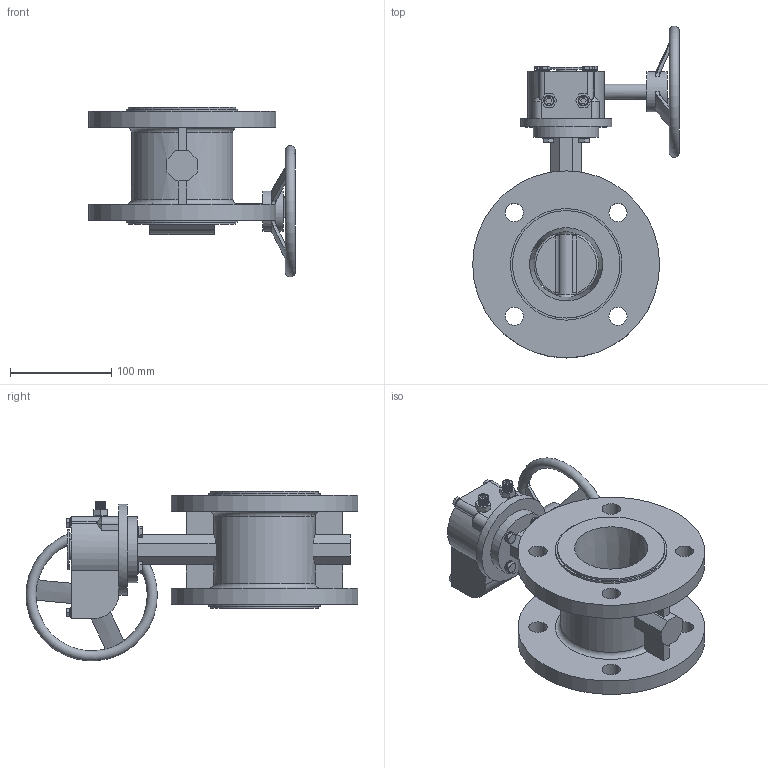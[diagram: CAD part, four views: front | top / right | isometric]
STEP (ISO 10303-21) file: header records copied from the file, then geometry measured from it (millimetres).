
FILE_DESCRIPTION (( 'STEP AP214' ), '1' );
FILE_NAME ('恦謫 邧楊擘評概 Fig.3226-204B-65-16.STEP', '2026-03-19T06:44:16', ( '' ), ( '' ), 'SwSTEP 2.0', 'SolidWorks 2024', '' );
FILE_SCHEMA (( 'AUTOMOTIVE_DESIGN' ));
Length unit declared in the file: millimetre
Products named in the file (1): 涡轮 双法兰蝶阀 Fig.3226-204B-65-16
Bounding box: 204.5 x 328.48 x 167.9 mm (x, y, z)
Volume: 1671727.8 mm3; surface area: 248926.6 mm2
Topology: 1 solids, 3 shells, 579 faces, 1463 edges, 953 vertices
Faces by surface type: plane 314, bspline 124, cylinder 90, cone 42, torus 9
Full cylindrical faces by diameter (mm): 6 x8, 6.68 x4, 7 x4, 10 x7, 10.68 x4, 15 x1, 18 x8, 20 x1, 30 x1, 40 x2, 50 x1, 65 x1, 90 x1, 106.4 x2, 110.4 x2, 185 x2
Entity records: 35016 total; most frequent: CARTESIAN_POINT 16126, ORIENTED_EDGE 2768, DIRECTION 2077, EDGE_CURVE 1384, VERTEX_POINT 923, EDGE_LOOP 725, LINE 719, VECTOR 719
